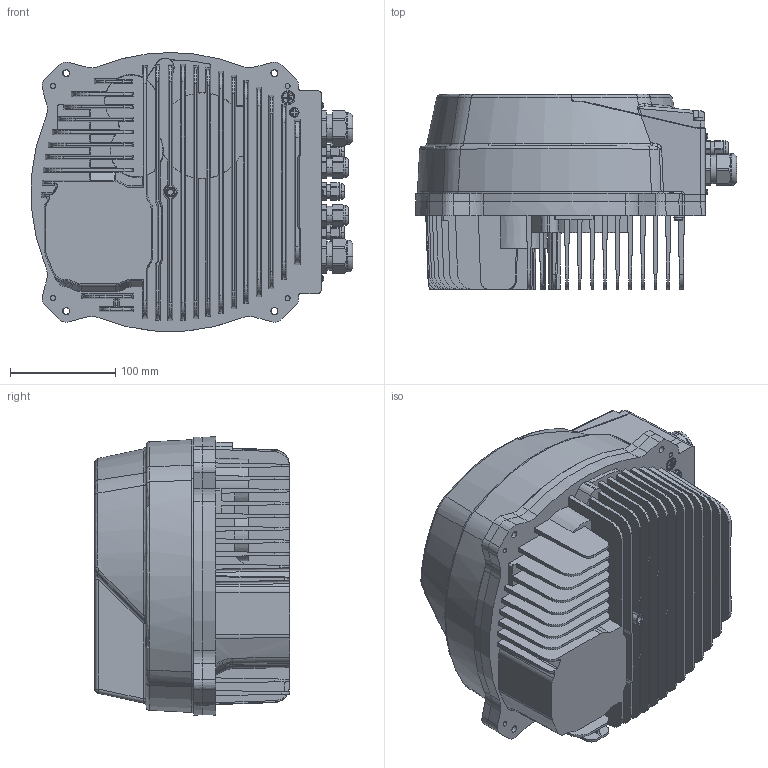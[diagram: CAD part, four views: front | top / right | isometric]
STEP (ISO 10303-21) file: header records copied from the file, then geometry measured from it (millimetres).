
FILE_DESCRIPTION((''),'2;1');
FILE_NAME('HVLB_030-110','2016-02-01T',('lcasarot'),('Xylem Service Italia srl'),'CREO PARAMETRIC BY PTC INC, 2015200','CREO PARAMETRIC BY PTC INC, 2015200','');
FILE_SCHEMA(('CONFIG_CONTROL_DESIGN'));
Length unit declared in the file: millimetre
Products named in the file (1): HVLB_030-110
Bounding box: 304.88 x 185.1 x 264.73 mm (x, y, z)
Volume: 7686258.7 mm3; surface area: 723770.8 mm2
Topology: 3 solids, 29 shells, 1575 faces, 4084 edges, 2678 vertices
Faces by surface type: plane 681, cylinder 393, cone 286, torus 112, extrusion 48, bspline 41, sphere 14
Entity records: 60749 total; most frequent: CARTESIAN_POINT 14512, ORIENTED_EDGE 8152, DIRECTION 7618, EDGE_CURVE 4076, AXIS2_PLACEMENT_3D 2813, VERTEX_POINT 2678, VECTOR 1992, LINE 1944
